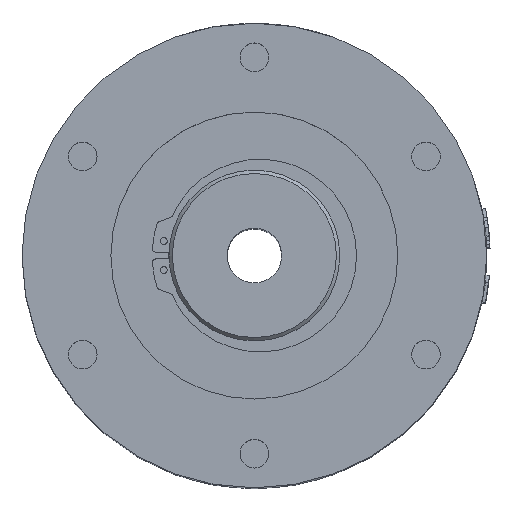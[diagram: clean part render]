
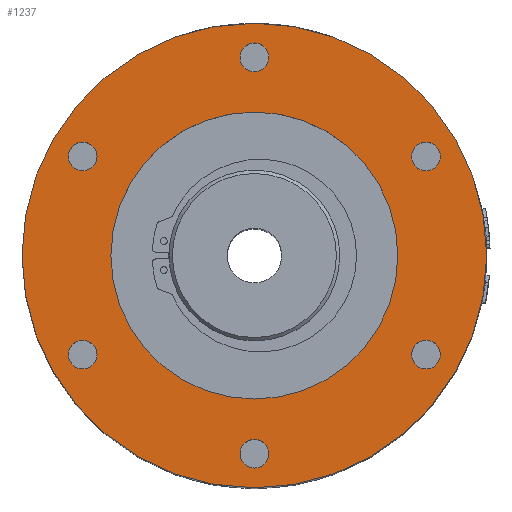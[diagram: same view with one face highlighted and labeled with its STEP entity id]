
A CAD part, top view. The second image highlights one B-rep face of the part: STEP entity #1237.
In plain terms, the highlighted planar face has unit normal (0, 0, 1).
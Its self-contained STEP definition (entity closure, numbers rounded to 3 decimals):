
#228=FACE_BOUND('',#2352,.T.);
#229=FACE_BOUND('',#2353,.T.);
#230=FACE_BOUND('',#2354,.T.);
#231=FACE_BOUND('',#2355,.T.);
#232=FACE_BOUND('',#2356,.T.);
#233=FACE_BOUND('',#2357,.T.);
#234=FACE_BOUND('',#2358,.T.);
#235=FACE_BOUND('',#2359,.T.);
#383=CIRCLE('',#6986,34.);
#433=CIRCLE('',#7079,2.1);
#440=CIRCLE('',#7095,2.1);
#441=CIRCLE('',#7097,2.1);
#442=CIRCLE('',#7099,2.1);
#443=CIRCLE('',#7101,2.1);
#444=CIRCLE('',#7103,2.1);
#445=CIRCLE('',#7105,21.);
#761=PLANE('',#7106);
#1237=ADVANCED_FACE('',(#228,#229,#230,#231,#232,#233,#234,#235),#761,.T.);
#2352=EDGE_LOOP('',(#3964));
#2353=EDGE_LOOP('',(#3965));
#2354=EDGE_LOOP('',(#3966));
#2355=EDGE_LOOP('',(#3967));
#2356=EDGE_LOOP('',(#3968));
#2357=EDGE_LOOP('',(#3969));
#2358=EDGE_LOOP('',(#3970));
#2359=EDGE_LOOP('',(#3971));
#3964=ORIENTED_EDGE('',*,*,#5931,.T.);
#3965=ORIENTED_EDGE('',*,*,#5930,.T.);
#3966=ORIENTED_EDGE('',*,*,#5929,.T.);
#3967=ORIENTED_EDGE('',*,*,#5928,.T.);
#3968=ORIENTED_EDGE('',*,*,#5927,.T.);
#3969=ORIENTED_EDGE('',*,*,#5932,.T.);
#3970=ORIENTED_EDGE('',*,*,#5834,.F.);
#3971=ORIENTED_EDGE('',*,*,#5918,.F.);
#4924=VERTEX_POINT('',#27599);
#4984=VERTEX_POINT('',#27786);
#4993=VERTEX_POINT('',#27927);
#4994=VERTEX_POINT('',#27930);
#4995=VERTEX_POINT('',#27933);
#4996=VERTEX_POINT('',#27936);
#4997=VERTEX_POINT('',#27939);
#4998=VERTEX_POINT('',#27942);
#5834=EDGE_CURVE('',#4924,#4924,#383,.T.);
#5918=EDGE_CURVE('',#4984,#4984,#433,.T.);
#5927=EDGE_CURVE('',#4993,#4993,#440,.T.);
#5928=EDGE_CURVE('',#4994,#4994,#441,.T.);
#5929=EDGE_CURVE('',#4995,#4995,#442,.T.);
#5930=EDGE_CURVE('',#4996,#4996,#443,.T.);
#5931=EDGE_CURVE('',#4997,#4997,#444,.T.);
#5932=EDGE_CURVE('',#4998,#4998,#445,.T.);
#6986=AXIS2_PLACEMENT_3D('',#27598,#7975,#7976);
#7079=AXIS2_PLACEMENT_3D('',#27785,#8195,#8196);
#7095=AXIS2_PLACEMENT_3D('',#27926,#8227,#8228);
#7097=AXIS2_PLACEMENT_3D('',#27929,#8231,#8232);
#7099=AXIS2_PLACEMENT_3D('',#27932,#8235,#8236);
#7101=AXIS2_PLACEMENT_3D('',#27935,#8239,#8240);
#7103=AXIS2_PLACEMENT_3D('',#27938,#8243,#8244);
#7105=AXIS2_PLACEMENT_3D('',#27941,#8247,#8248);
#7106=AXIS2_PLACEMENT_3D('',#27943,#8249,#8250);
#7975=DIRECTION('',(0.,0.,-1.));
#7976=DIRECTION('',(0.,-1.,0.));
#8195=DIRECTION('',(0.,0.,1.));
#8196=DIRECTION('',(0.,-1.,0.));
#8227=DIRECTION('',(0.,0.,-1.));
#8228=DIRECTION('',(0.,-1.,0.));
#8231=DIRECTION('',(0.,0.,-1.));
#8232=DIRECTION('',(0.,-1.,0.));
#8235=DIRECTION('',(0.,0.,-1.));
#8236=DIRECTION('',(0.,-1.,0.));
#8239=DIRECTION('',(0.,0.,-1.));
#8240=DIRECTION('',(0.,-1.,0.));
#8243=DIRECTION('',(0.,0.,-1.));
#8244=DIRECTION('',(0.,-1.,0.));
#8247=DIRECTION('',(0.,0.,-1.));
#8248=DIRECTION('',(0.,-1.,0.));
#8249=DIRECTION('',(0.,0.,1.));
#8250=DIRECTION('',(0.,-1.,0.));
#27598=CARTESIAN_POINT('',(0.,0.,82.));
#27599=CARTESIAN_POINT('',(0.,-34.,82.));
#27785=CARTESIAN_POINT('',(0.,29.,82.));
#27786=CARTESIAN_POINT('',(0.,26.9,82.));
#27926=CARTESIAN_POINT('',(25.115,14.5,82.));
#27927=CARTESIAN_POINT('',(25.115,12.4,82.));
#27929=CARTESIAN_POINT('',(25.115,-14.5,82.));
#27930=CARTESIAN_POINT('',(25.115,-16.6,82.));
#27932=CARTESIAN_POINT('',(0.,-29.,82.));
#27933=CARTESIAN_POINT('',(0.,-31.1,82.));
#27935=CARTESIAN_POINT('',(-25.115,-14.5,82.));
#27936=CARTESIAN_POINT('',(-25.115,-16.6,82.));
#27938=CARTESIAN_POINT('',(-25.115,14.5,82.));
#27939=CARTESIAN_POINT('',(-25.115,12.4,82.));
#27941=CARTESIAN_POINT('',(0.,0.,82.));
#27942=CARTESIAN_POINT('',(0.,-21.,82.));
#27943=CARTESIAN_POINT('',(-100.,0.,82.));
